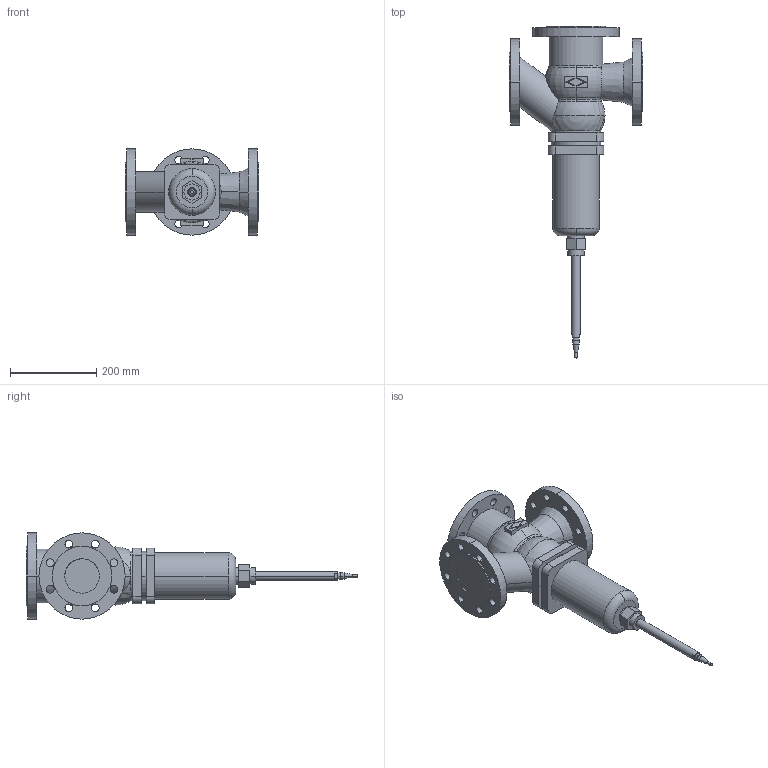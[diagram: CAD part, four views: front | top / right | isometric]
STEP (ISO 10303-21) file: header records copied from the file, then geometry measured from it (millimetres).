
FILE_DESCRIPTION( ( '' ), '1' );
FILE_NAME( 'F:/DE-SHS/TB/OR/04-Sonstiges/daten/files_3d/773-Mischventil/773-Mischventil_PN25/c000006175.stp', '2016-04-11T09:10:17', ( '' ), ( '' ), ' ', ' ', ' ' );
FILE_SCHEMA( ( 'CONFIG_CONTROL_DESIGN' ) );
Length unit declared in the file: millimetre
Products named in the file (1): 1
Bounding box: 310 x 770.06 x 200 mm (x, y, z)
Volume: 8633230.3 mm3; surface area: 489681.8 mm2
Topology: 1 solids, 1 shells, 176 faces, 456 edges, 299 vertices
Faces by surface type: cylinder 94, plane 60, torus 14, cone 6, sphere 2
Entity records: 6154 total; most frequent: CARTESIAN_POINT 1526, DIRECTION 1024, ORIENTED_EDGE 904, EDGE_CURVE 452, AXIS2_PLACEMENT_3D 417, VERTEX_POINT 299, EDGE_LOOP 245, CIRCLE 238
